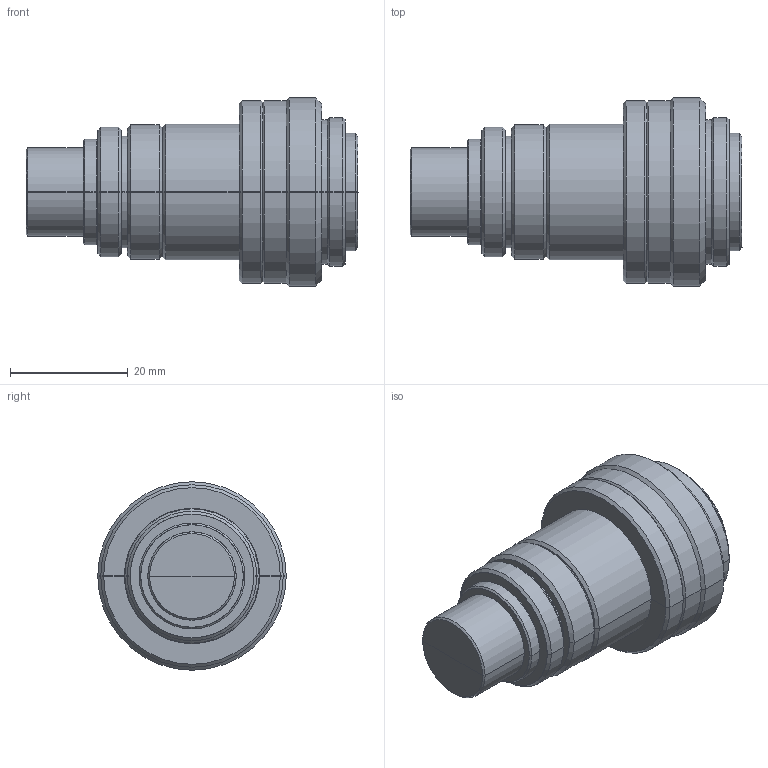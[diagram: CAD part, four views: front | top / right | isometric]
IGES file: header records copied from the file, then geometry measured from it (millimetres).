
Start section: SolidWorks IGES file using analytic representation for surfaces
Bounding box: 56.4 x 32 x 32 mm (x, y, z)
Surface area: 5826.6 mm2 (no closed solid volume)
Topology: 0 solids, 0 shells, 71 faces, 584 edges, 580 vertices
Faces by surface type: revolution 66, bspline 5
